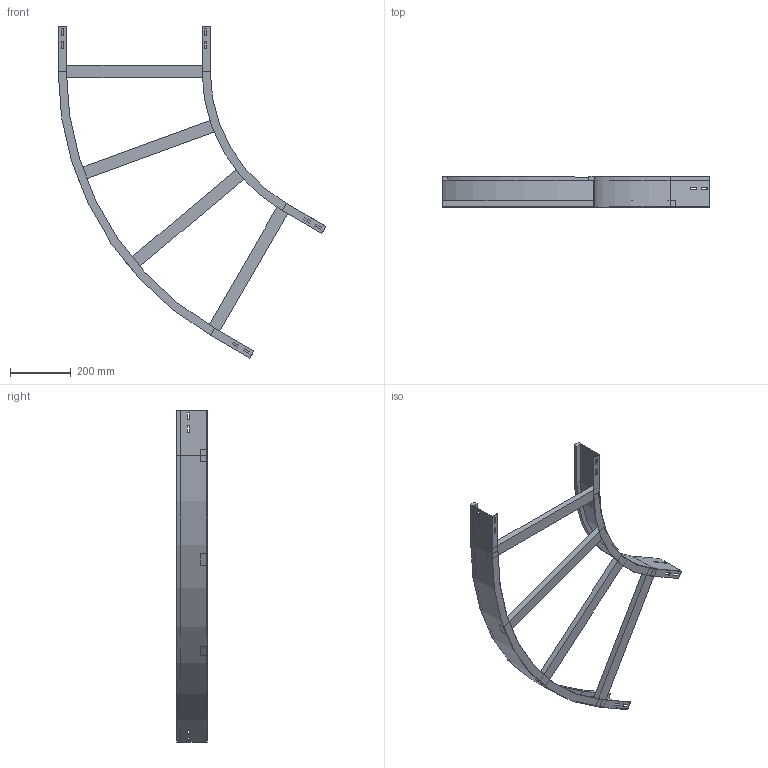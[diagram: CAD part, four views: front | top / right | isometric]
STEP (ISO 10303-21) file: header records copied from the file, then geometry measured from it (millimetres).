
FILE_DESCRIPTION (( 'STEP AP214' ), '1' );
FILE_NAME ('13B5D500.step', '2025-02-21T15:17:14', ( '' ), ( '' ), 'SwSTEP 2.0', 'SolidWorks 2023', '' );
FILE_SCHEMA (( 'AUTOMOTIVE_DESIGN' ));
Length unit declared in the file: millimetre
Products named in the file (4): TRAVERSINO_500; A2_LONGH.ESTERNO 60°_H100_R500+500; 13B5D500; A2_LONGH.INTERNO 60°_H100_R500
Assembly tree (6 placements, depth 2):
  13B5D500
    A2_LONGH.INTERNO 60°_H100_R500
    A2_LONGH.ESTERNO 60°_H100_R500+500
    TRAVERSINO_500  x4
Bounding box: 879.9 x 100 x 1091.03 mm (x, y, z)
Volume: 2561604 mm3; surface area: 866087.7 mm2
Topology: 6 solids, 6 shells, 140 faces, 352 edges, 224 vertices
Faces by surface type: plane 132, cylinder 8
Entity records: 3829 total; most frequent: CARTESIAN_POINT 647, ORIENTED_EDGE 632, DIRECTION 594, EDGE_CURVE 316, LINE 300, VECTOR 300, VERTEX_POINT 200, EDGE_LOOP 154
